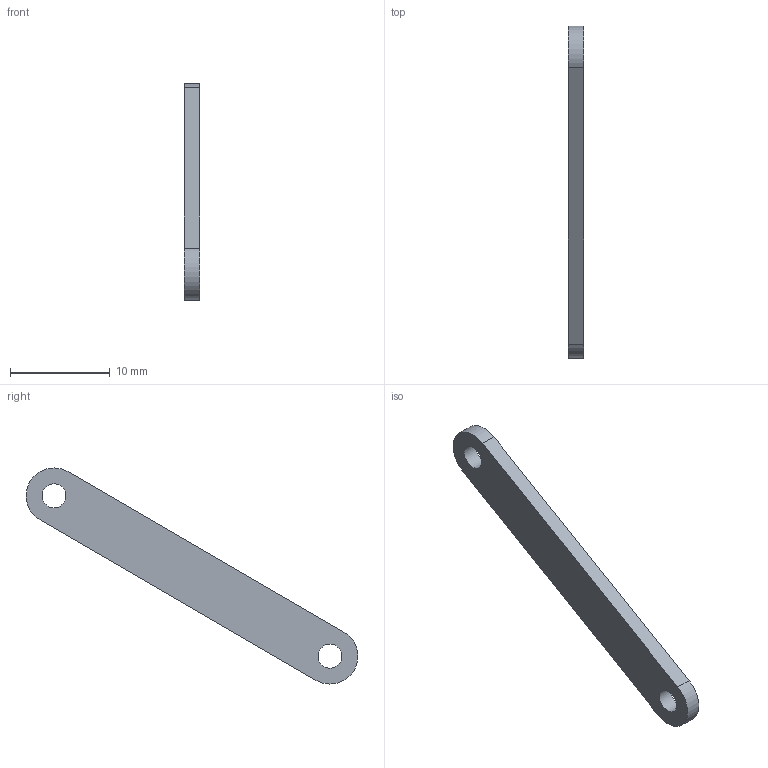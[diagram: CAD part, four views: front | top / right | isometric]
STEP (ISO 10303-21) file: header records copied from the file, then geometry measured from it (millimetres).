
FILE_DESCRIPTION(('Open CASCADE Model'),'2;1');
FILE_NAME('Open CASCADE Shape Model','2026-09-30T23:04:27',('Author'),( 'Open CASCADE'),'Open CASCADE STEP processor 8.0','Open CASCADE 8.0' ,'Unknown');
FILE_SCHEMA(('AP242_MANAGED_MODEL_BASED_3D_ENGINEERING_MIM_LF {1 0 10303 442 1 1 4 }' ));
Length unit declared in the file: millimetre
Products named in the file (1): Open CASCADE STEP translator 8.0 5
Bounding box: 1.6 x 33.3 x 21.7 mm (x, y, z)
Volume: 270.8 mm3; surface area: 579.4 mm2
Topology: 1 solids, 1 shells, 13 faces, 30 edges, 20 vertices
Faces by surface type: plane 9, cylinder 4
Full cylindrical faces by diameter (mm): 2.4 x2
Entity records: 776 total; most frequent: CARTESIAN_POINT 146, DIRECTION 114, LINE 64, VECTOR 64, ORIENTED_EDGE 60, PCURVE 60, DEFINITIONAL_REPRESENTATION 60, EDGE_CURVE 30
